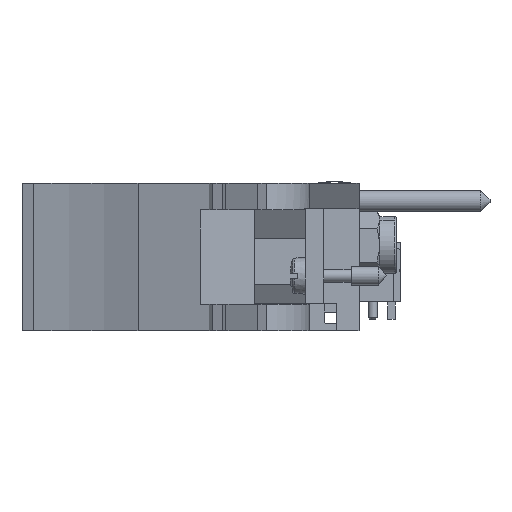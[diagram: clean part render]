
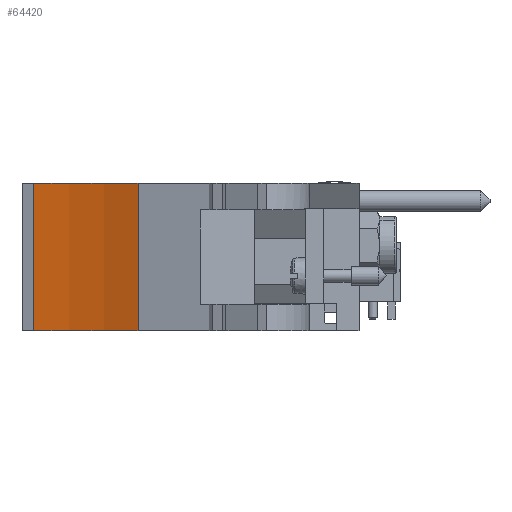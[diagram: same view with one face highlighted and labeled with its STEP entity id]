
A CAD part, front view. The second image highlights one B-rep face of the part: STEP entity #64420.
In plain terms, the highlighted cylindrical face has radius 51.46 mm (diameter 102.919 mm), a partial arc.
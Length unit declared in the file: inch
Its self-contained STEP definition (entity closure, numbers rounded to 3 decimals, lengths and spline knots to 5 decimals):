
#52374=CARTESIAN_POINT('',(-11.64733,-0.48944,-4.80201));
#52375=DIRECTION('',(0.,0.,-1.));
#52376=DIRECTION('',(0.16,0.987,0.));
#52377=AXIS2_PLACEMENT_3D('',#52374,#52375,#52376);
#52577=CARTESIAN_POINT('',(-11.64733,-0.48944,-5.59001));
#52578=DIRECTION('',(0.,0.,1.));
#52579=DIRECTION('',(0.435,0.9,0.));
#52580=AXIS2_PLACEMENT_3D('',#52577,#52578,#52579);
#53362=DIRECTION('',(0.,0.,1.));
#53363=VECTOR('',#53362,0.788);
#53364=CARTESIAN_POINT('',(-10.76603,1.3348,
-5.59001));
#53365=LINE('',#53364,#53363);
#53366=DIRECTION('',(0.,0.,-1.));
#53367=VECTOR('',#53366,0.788);
#53368=CARTESIAN_POINT('',(-11.324,1.51056,
-4.80201));
#53369=LINE('',#53368,#53367);
#60456=CARTESIAN_POINT('',(-11.324,1.51056,
-5.59001));
#60457=VERTEX_POINT('',#60456);
#60458=CARTESIAN_POINT('',(-10.76603,1.3348,
-5.59001));
#60459=VERTEX_POINT('',#60458);
#60594=CARTESIAN_POINT('',(-10.76603,1.3348,
-4.80201));
#60595=VERTEX_POINT('',#60594);
#60596=CARTESIAN_POINT('',(-11.324,1.51056,
-4.80201));
#60597=VERTEX_POINT('',#60596);
#64408=CARTESIAN_POINT('',(-11.64733,-0.48944,-5.60577));
#64409=DIRECTION('',(0.,0.,1.));
#64410=DIRECTION('',(0.,1.,0.));
#64411=AXIS2_PLACEMENT_3D('',#64408,#64409,#64410);
#64412=CYLINDRICAL_SURFACE('',#64411,2.02597);
#64413=ORIENTED_EDGE('',*,*,#63591,.T.);
#64414=ORIENTED_EDGE('',*,*,#63133,.F.);
#64416=ORIENTED_EDGE('',*,*,#64415,.T.);
#64417=ORIENTED_EDGE('',*,*,#63311,.F.);
#64418=EDGE_LOOP('',(#64413,#64414,#64416,#64417));
#64419=FACE_OUTER_BOUND('',#64418,.F.);
#64420=ADVANCED_FACE('',(#64419),#64412,.T.);
#52378=CIRCLE('',#52377,2.02597);
#52581=CIRCLE('',#52580,2.02597);
#63133=EDGE_CURVE('',#60597,#60595,#52378,.T.);
#63311=EDGE_CURVE('',#60459,#60457,#52581,.T.);
#63591=EDGE_CURVE('',#60459,#60595,#53365,.T.);
#64415=EDGE_CURVE('',#60597,#60457,#53369,.T.);
